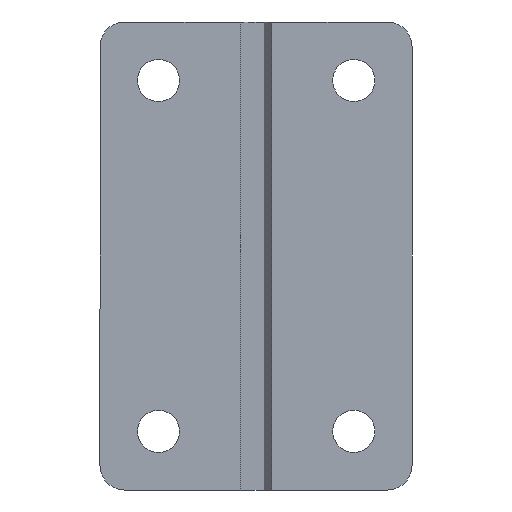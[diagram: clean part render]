
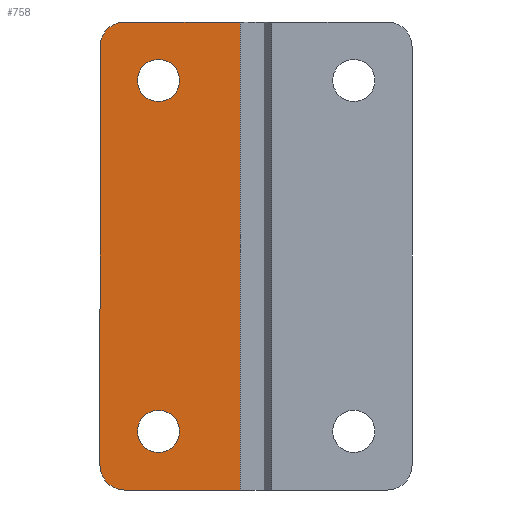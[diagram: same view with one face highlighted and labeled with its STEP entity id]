
A CAD part, front view. The second image highlights one B-rep face of the part: STEP entity #758.
In plain terms, the highlighted planar face has unit normal (0, -1, 0).
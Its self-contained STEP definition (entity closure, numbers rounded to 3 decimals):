
#141=CARTESIAN_POINT('',(-9.655,-0.795,14.29));
#142=VERTEX_POINT('',#141);
#151=CARTESIAN_POINT('',(-6.225,-0.795,14.29));
#152=VERTEX_POINT('',#151);
#153=CARTESIAN_POINT('',(-7.94,-0.795,14.29));
#154=DIRECTION('',(0.0,1.0,0.0));
#155=DIRECTION('',(-1.0,0.0,0.0));
#156=AXIS2_PLACEMENT_3D('',#153,#154,#155);
#157=CIRCLE('',#156,1.715);
#158=EDGE_CURVE('',#152,#142,#157,.T.);
#221=CARTESIAN_POINT('',(-9.655,-0.795,-14.28));
#222=VERTEX_POINT('',#221);
#231=CARTESIAN_POINT('',(-6.225,-0.795,-14.28));
#232=VERTEX_POINT('',#231);
#233=CARTESIAN_POINT('',(-7.94,-0.795,-14.28));
#234=DIRECTION('',(0.0,1.0,0.0));
#235=DIRECTION('',(-1.0,0.0,0.0));
#236=AXIS2_PLACEMENT_3D('',#233,#234,#235);
#237=CIRCLE('',#236,1.715);
#238=EDGE_CURVE('',#232,#222,#237,.T.);
#554=CARTESIAN_POINT('',(-7.94,-0.795,-14.28));
#555=DIRECTION('',(0.0,1.0,0.0));
#556=DIRECTION('',(-1.0,0.0,0.0));
#557=AXIS2_PLACEMENT_3D('',#554,#555,#556);
#558=CIRCLE('',#557,1.715);
#559=EDGE_CURVE('',#222,#232,#558,.T.);
#590=CARTESIAN_POINT('',(-7.94,-0.795,14.29));
#591=DIRECTION('',(0.0,1.0,0.0));
#592=DIRECTION('',(-1.0,0.0,0.0));
#593=AXIS2_PLACEMENT_3D('',#590,#591,#592);
#594=CIRCLE('',#593,1.715);
#595=EDGE_CURVE('',#142,#152,#594,.T.);
#605=CARTESIAN_POINT('',(-1.27,-0.795,19.05));
#606=VERTEX_POINT('',#605);
#615=CARTESIAN_POINT('',(-1.27,-0.795,-19.05));
#616=VERTEX_POINT('',#615);
#617=CARTESIAN_POINT('',(-1.27,-0.795,-19.05));
#618=DIRECTION('',(0.0,0.0,1.0));
#619=VECTOR('',#618,38.1);
#620=LINE('',#617,#619);
#621=EDGE_CURVE('',#616,#606,#620,.T.);
#702=CARTESIAN_POINT('',(0.,-0.795,0.0));
#703=DIRECTION('',(0.0,-1.0,0.0));
#704=DIRECTION('',(1.0,0.0,0.0));
#705=AXIS2_PLACEMENT_3D('',#702,#703,#704);
#706=PLANE('',#705);
#707=ORIENTED_EDGE('',*,*,#621,.T.);
#708=CARTESIAN_POINT('',(-10.7,-0.795,19.05));
#709=VERTEX_POINT('',#708);
#710=CARTESIAN_POINT('',(-10.7,-0.795,19.05));
#711=DIRECTION('',(1.0,0.0,0.0));
#712=VECTOR('',#711,9.43);
#713=LINE('',#710,#712);
#714=EDGE_CURVE('',#709,#606,#713,.T.);
#715=ORIENTED_EDGE('',*,*,#714,.F.);
#716=CARTESIAN_POINT('',(-12.7,-0.795,17.05));
#717=VERTEX_POINT('',#716);
#718=CARTESIAN_POINT('',(-10.7,-0.795,17.05));
#719=DIRECTION('',(0.0,1.0,0.0));
#720=DIRECTION('',(1.0,0.0,0.0));
#721=AXIS2_PLACEMENT_3D('',#718,#719,#720);
#722=CIRCLE('',#721,2.0);
#723=EDGE_CURVE('',#717,#709,#722,.T.);
#724=ORIENTED_EDGE('',*,*,#723,.F.);
#725=CARTESIAN_POINT('',(-12.7,-0.795,-17.05));
#726=VERTEX_POINT('',#725);
#727=CARTESIAN_POINT('',(-12.7,-0.795,-17.05));
#728=DIRECTION('',(0.0,0.0,1.0));
#729=VECTOR('',#728,34.1);
#730=LINE('',#727,#729);
#731=EDGE_CURVE('',#726,#717,#730,.T.);
#732=ORIENTED_EDGE('',*,*,#731,.F.);
#733=CARTESIAN_POINT('',(-10.7,-0.795,-19.05));
#734=VERTEX_POINT('',#733);
#735=CARTESIAN_POINT('',(-10.7,-0.795,-17.05));
#736=DIRECTION('',(0.0,1.0,0.0));
#737=DIRECTION('',(1.0,0.0,0.0));
#738=AXIS2_PLACEMENT_3D('',#735,#736,#737);
#739=CIRCLE('',#738,2.0);
#740=EDGE_CURVE('',#734,#726,#739,.T.);
#741=ORIENTED_EDGE('',*,*,#740,.F.);
#742=CARTESIAN_POINT('',(-1.27,-0.795,-19.05));
#743=DIRECTION('',(-1.0,0.0,0.0));
#744=VECTOR('',#743,9.43);
#745=LINE('',#742,#744);
#746=EDGE_CURVE('',#616,#734,#745,.T.);
#747=ORIENTED_EDGE('',*,*,#746,.F.);
#748=EDGE_LOOP('',(#707,#715,#724,#732,#741,#747));
#749=FACE_OUTER_BOUND('',#748,.T.);
#750=ORIENTED_EDGE('',*,*,#559,.T.);
#751=ORIENTED_EDGE('',*,*,#238,.T.);
#752=EDGE_LOOP('',(#750,#751));
#753=FACE_BOUND('',#752,.T.);
#754=ORIENTED_EDGE('',*,*,#595,.T.);
#755=ORIENTED_EDGE('',*,*,#158,.T.);
#756=EDGE_LOOP('',(#754,#755));
#757=FACE_BOUND('',#756,.T.);
#758=ADVANCED_FACE('',(#749,#753,#757),#706,.T.);
